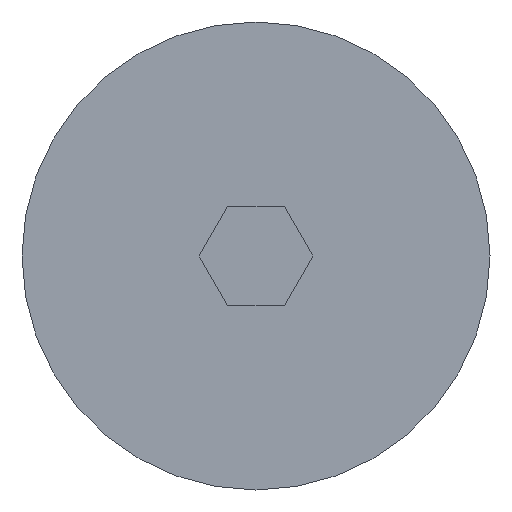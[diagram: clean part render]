
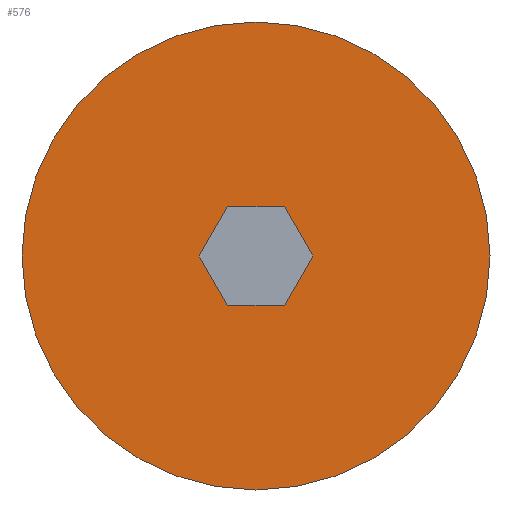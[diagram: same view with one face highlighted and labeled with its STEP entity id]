
A CAD part, left-side view. The second image highlights one B-rep face of the part: STEP entity #576.
In plain terms, the highlighted planar face has unit normal (-1, 0, 0).
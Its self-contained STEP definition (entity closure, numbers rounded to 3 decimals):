
#21 = EDGE_CURVE ( 'NONE', #523, #37, #349, .T. ) ;
#32 = VECTOR ( 'NONE', #57, 1000. ) ;
#37 = VERTEX_POINT ( 'NONE', #534 ) ;
#57 = DIRECTION ( 'NONE',  ( 0., -0.5, -0.866 ) ) ;
#75 = EDGE_CURVE ( 'NONE', #37, #398, #538, .T. ) ;
#82 = DIRECTION ( 'NONE',  ( 0., 0.5, -0.866 ) ) ;
#90 = AXIS2_PLACEMENT_3D ( 'NONE', #440, #498, #739 ) ;
#101 = CARTESIAN_POINT ( 'NONE',  ( 0., 0., 0. ) ) ;
#130 = EDGE_CURVE ( 'NONE', #142, #358, #322, .T. ) ;
#131 = ORIENTED_EDGE ( 'NONE', *, *, #664, .F. ) ;
#142 = VERTEX_POINT ( 'NONE', #603 ) ;
#143 = PLANE ( 'NONE',  #181 ) ;
#147 = VECTOR ( 'NONE', #483, 1000. ) ;
#149 = ORIENTED_EDGE ( 'NONE', *, *, #75, .F. ) ;
#151 = EDGE_CURVE ( 'NONE', #211, #142, #200, .T. ) ;
#154 = ORIENTED_EDGE ( 'NONE', *, *, #130, .F. ) ;
#175 = EDGE_CURVE ( 'NONE', #358, #523, #611, .T. ) ;
#181 = AXIS2_PLACEMENT_3D ( 'NONE', #656, #309, #371 ) ;
#200 = LINE ( 'NONE', #490, #359 ) ;
#206 = CARTESIAN_POINT ( 'NONE',  ( 0., -2.309, 0. ) ) ;
#208 = DIRECTION ( 'NONE',  ( 1., 0., 0. ) ) ;
#211 = VERTEX_POINT ( 'NONE', #447 ) ;
#247 = CARTESIAN_POINT ( 'NONE',  ( 0., 2.309, 0. ) ) ;
#250 = FACE_OUTER_BOUND ( 'NONE', #319, .T. ) ;
#257 = AXIS2_PLACEMENT_3D ( 'NONE', #101, #208, #385 ) ;
#273 = CARTESIAN_POINT ( 'NONE',  ( 0., -2.309, 0. ) ) ;
#300 = VECTOR ( 'NONE', #82, 1000. ) ;
#309 = DIRECTION ( 'NONE',  ( 1., 0., 0. ) ) ;
#317 = FACE_BOUND ( 'NONE', #507, .T. ) ;
#319 = EDGE_LOOP ( 'NONE', ( #370, #730 ) ) ;
#322 = LINE ( 'NONE', #424, #147 ) ;
#349 = LINE ( 'NONE', #457, #556 ) ;
#358 = VERTEX_POINT ( 'NONE', #273 ) ;
#359 = VECTOR ( 'NONE', #542, 1000. ) ;
#370 = ORIENTED_EDGE ( 'NONE', *, *, #659, .F. ) ;
#371 = DIRECTION ( 'NONE',  ( 0., 0., -1. ) ) ;
#379 = DIRECTION ( 'NONE',  ( 0., 0.5, 0.866 ) ) ;
#380 = ORIENTED_EDGE ( 'NONE', *, *, #151, .F. ) ;
#385 = DIRECTION ( 'NONE',  ( 0., 0., -1. ) ) ;
#398 = VERTEX_POINT ( 'NONE', #247 ) ;
#424 = CARTESIAN_POINT ( 'NONE',  ( 0., -1.155, -2. ) ) ;
#440 = CARTESIAN_POINT ( 'NONE',  ( 0., 0., 0. ) ) ;
#446 = CARTESIAN_POINT ( 'NONE',  ( 0., 2.309, 0. ) ) ;
#447 = CARTESIAN_POINT ( 'NONE',  ( 0., 1.155, -2. ) ) ;
#454 = VERTEX_POINT ( 'NONE', #469 ) ;
#457 = CARTESIAN_POINT ( 'NONE',  ( 0., -1.155, 2. ) ) ;
#469 = CARTESIAN_POINT ( 'NONE',  ( 0., 0., 9.5 ) ) ;
#483 = DIRECTION ( 'NONE',  ( 0., -0.5, 0.866 ) ) ;
#490 = CARTESIAN_POINT ( 'NONE',  ( 0., 1.155, -2. ) ) ;
#498 = DIRECTION ( 'NONE',  ( 1., 0., 0. ) ) ;
#507 = EDGE_LOOP ( 'NONE', ( #604, #154, #380, #131, #149, #633 ) ) ;
#523 = VERTEX_POINT ( 'NONE', #533 ) ;
#533 = CARTESIAN_POINT ( 'NONE',  ( 0., -1.155, 2. ) ) ;
#534 = CARTESIAN_POINT ( 'NONE',  ( 0., 1.155, 2. ) ) ;
#537 = CARTESIAN_POINT ( 'NONE',  ( 0., 0., -9.5 ) ) ;
#538 = LINE ( 'NONE', #672, #300 ) ;
#542 = DIRECTION ( 'NONE',  ( 0., -1., 0. ) ) ;
#556 = VECTOR ( 'NONE', #700, 1000. ) ;
#576 = ADVANCED_FACE ( 'NONE', ( #317, #250 ), #143, .F. ) ;
#587 = VERTEX_POINT ( 'NONE', #537 ) ;
#596 = CIRCLE ( 'NONE', #257, 9.5 ) ;
#603 = CARTESIAN_POINT ( 'NONE',  ( 0., -1.155, -2. ) ) ;
#604 = ORIENTED_EDGE ( 'NONE', *, *, #175, .F. ) ;
#607 = CIRCLE ( 'NONE', #90, 9.5 ) ;
#611 = LINE ( 'NONE', #206, #724 ) ;
#633 = ORIENTED_EDGE ( 'NONE', *, *, #21, .F. ) ;
#656 = CARTESIAN_POINT ( 'NONE',  ( 0., 0., 0. ) ) ;
#659 = EDGE_CURVE ( 'NONE', #454, #587, #596, .T. ) ;
#664 = EDGE_CURVE ( 'NONE', #398, #211, #683, .T. ) ;
#672 = CARTESIAN_POINT ( 'NONE',  ( 0., 1.155, 2. ) ) ;
#683 = LINE ( 'NONE', #446, #32 ) ;
#700 = DIRECTION ( 'NONE',  ( 0., 1., 0. ) ) ;
#716 = EDGE_CURVE ( 'NONE', #587, #454, #607, .T. ) ;
#724 = VECTOR ( 'NONE', #379, 1000. ) ;
#730 = ORIENTED_EDGE ( 'NONE', *, *, #716, .F. ) ;
#739 = DIRECTION ( 'NONE',  ( 0., 0., -1. ) ) ;
